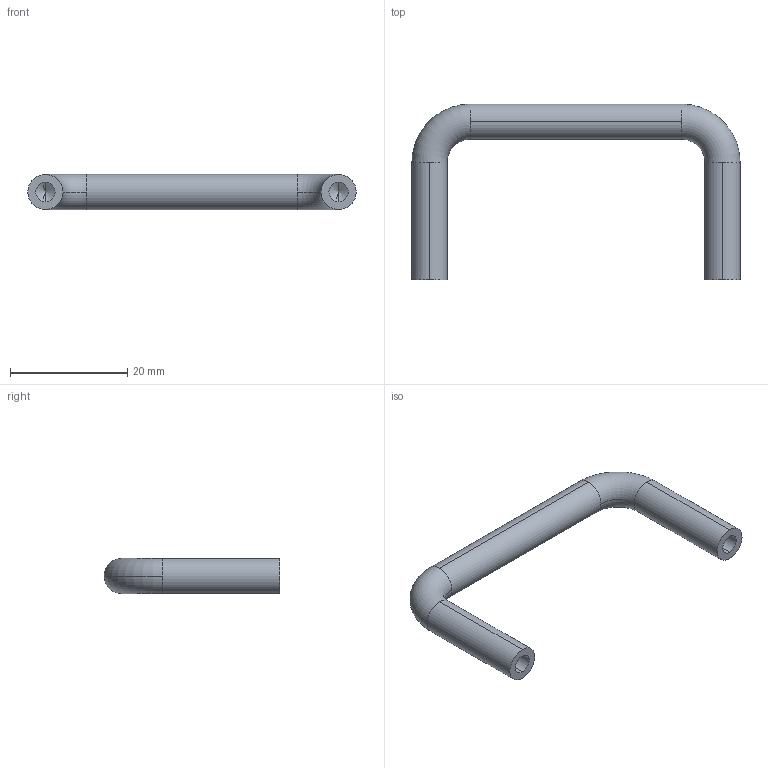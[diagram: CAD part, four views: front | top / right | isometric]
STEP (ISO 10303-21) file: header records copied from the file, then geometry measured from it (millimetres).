
FILE_DESCRIPTION (( 'STEP AP203' ), '1' );
FILE_NAME ('SK4-012-5006.STEP', '2018-11-02T05:05:48', ( 'admin' ), ( 'Microsoft' ), 'SwSTEP 2.0', 'SolidWorks 2015', '' );
FILE_SCHEMA (( 'CONFIG_CONTROL_DESIGN' ));
Length unit declared in the file: millimetre
Products named in the file (1): SK4-012-5006
Bounding box: 56 x 30 x 6 mm (x, y, z)
Volume: 2568.3 mm3; surface area: 2144.9 mm2
Topology: 1 solids, 1 shells, 20 faces, 50 edges, 30 vertices
Faces by surface type: cylinder 10, torus 4, cone 4, plane 2
Entity records: 663 total; most frequent: DIRECTION 120, CARTESIAN_POINT 97, ORIENTED_EDGE 92, AXIS2_PLACEMENT_3D 53, EDGE_CURVE 46, CIRCLE 32, VERTEX_POINT 30, EDGE_LOOP 22
